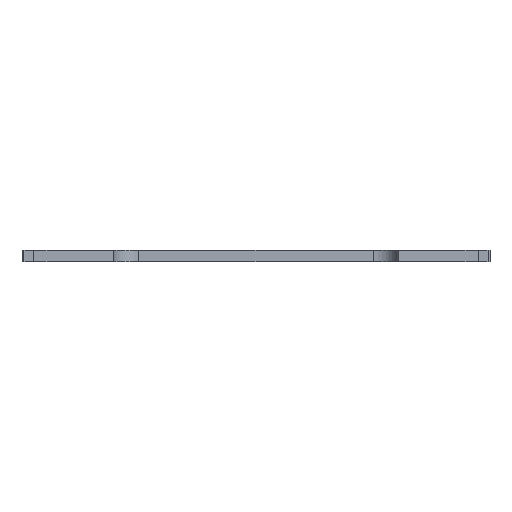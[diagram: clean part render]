
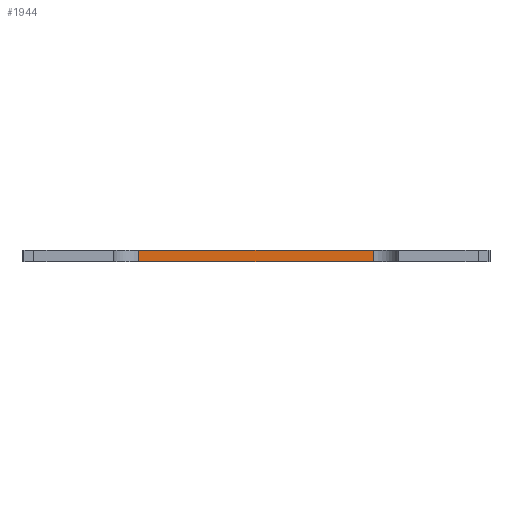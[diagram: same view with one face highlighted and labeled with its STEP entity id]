
A CAD part, front view. The second image highlights one B-rep face of the part: STEP entity #1944.
In plain terms, the highlighted planar face has unit normal (0, -1, 0).
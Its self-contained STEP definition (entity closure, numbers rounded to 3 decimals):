
#57=PLANE($,#2121);
#148=FACE_OUTER_BOUND($,#252,.T.);
#252=EDGE_LOOP($,(#1718,#1719,#1720,#1721));
#379=LINE($,#3029,#591);
#451=LINE($,#3193,#663);
#469=LINE($,#3237,#681);
#471=LINE($,#3240,#683);
#591=VECTOR($,#2442,238.);
#663=VECTOR($,#2560,238.);
#681=VECTOR($,#2628,12.);
#683=VECTOR($,#2632,12.);
#902=VERTEX_POINT($,#3026);
#903=VERTEX_POINT($,#3028);
#971=VERTEX_POINT($,#3190);
#972=VERTEX_POINT($,#3192);
#1124=EDGE_CURVE($,#902,#903,#379,.T.);
#1218=EDGE_CURVE($,#971,#972,#451,.T.);
#1237=EDGE_CURVE($,#903,#971,#469,.T.);
#1239=EDGE_CURVE($,#972,#902,#471,.T.);
#1718=ORIENTED_EDGE($,*,*,#1237,.F.);
#1719=ORIENTED_EDGE($,*,*,#1124,.F.);
#1720=ORIENTED_EDGE($,*,*,#1239,.F.);
#1721=ORIENTED_EDGE($,*,*,#1218,.F.);
#1944=ADVANCED_FACE($,(#148),#57,.F.);
#2121=AXIS2_PLACEMENT_3D($,#3239,#2630,#2631);
#2442=DIRECTION($,(1.,0.,0.));
#2560=DIRECTION($,(-1.,0.,0.));
#2628=DIRECTION($,(0.,0.,-1.));
#2630=DIRECTION('center_axis',(0.,1.,0.));
#2631=DIRECTION('ref_axis',(1.,0.,0.));
#2632=DIRECTION($,(0.,0.,1.));
#3026=CARTESIAN_POINT('',(-119.,-250.,12.));
#3028=CARTESIAN_POINT('',(119.,-250.,12.));
#3029=CARTESIAN_POINT($,(-72.,-250.,12.));
#3190=CARTESIAN_POINT('',(119.,-250.,0.));
#3192=CARTESIAN_POINT('',(-119.,-250.,0.));
#3193=CARTESIAN_POINT($,(-72.,-250.,0.));
#3237=CARTESIAN_POINT($,(119.,-250.,12.));
#3239=CARTESIAN_POINT('Origin',(-144.,-250.,12.));
#3240=CARTESIAN_POINT($,(-119.,-250.,12.));
